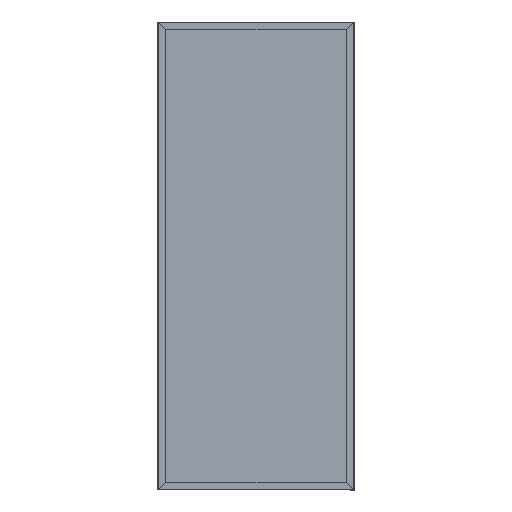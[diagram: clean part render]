
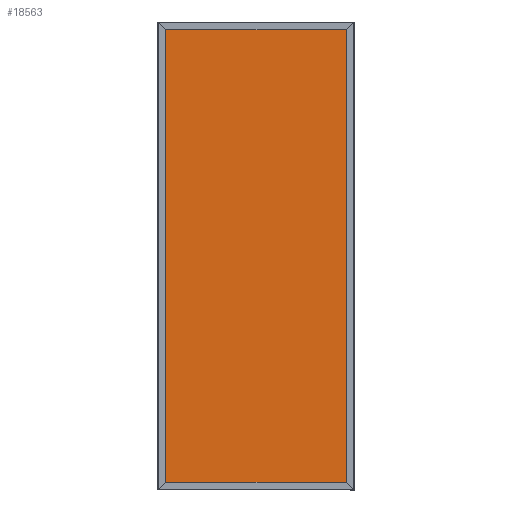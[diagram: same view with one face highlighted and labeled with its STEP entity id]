
A CAD part, top view. The second image highlights one B-rep face of the part: STEP entity #18563.
In plain terms, the highlighted planar face has unit normal (0, 0, 1).
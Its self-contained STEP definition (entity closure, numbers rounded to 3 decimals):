
#590 = ORIENTED_EDGE ( 'NONE', *, *, #17396, .F. ) ;
#1363 = CARTESIAN_POINT ( 'NONE',  ( 465.07, 0., -13.25 ) ) ;
#1389 = ORIENTED_EDGE ( 'NONE', *, *, #23765, .T. ) ;
#2536 = DIRECTION ( 'NONE',  ( -1., 0., 0. ) ) ;
#3488 = VERTEX_POINT ( 'NONE', #24985 ) ;
#3492 = DIRECTION ( 'NONE',  ( 0., 1., 0. ) ) ;
#4734 = FACE_OUTER_BOUND ( 'NONE', #6792, .T. ) ;
#5051 = AXIS2_PLACEMENT_3D ( 'NONE', #11114, #20079, #17928 ) ;
#5874 = CARTESIAN_POINT ( 'NONE',  ( 465.07, 1162.2, -13.25 ) ) ;
#6182 = LINE ( 'NONE', #23545, #13918 ) ;
#6792 = EDGE_LOOP ( 'NONE', ( #25940, #590, #10484, #1389 ) ) ;
#7787 = LINE ( 'NONE', #16741, #25821 ) ;
#9973 = CARTESIAN_POINT ( 'NONE',  ( -465.07, -1162.2, -13.25 ) ) ;
#10484 = ORIENTED_EDGE ( 'NONE', *, *, #11732, .T. ) ;
#11114 = CARTESIAN_POINT ( 'NONE',  ( 0., 0., -13.25 ) ) ;
#11269 = PLANE ( 'NONE',  #5051 ) ;
#11732 = EDGE_CURVE ( 'NONE', #14538, #17063, #14151, .T. ) ;
#12580 = VECTOR ( 'NONE', #3492, 1000. ) ;
#13918 = VECTOR ( 'NONE', #23254, 1000. ) ;
#14151 = LINE ( 'NONE', #1363, #12580 ) ;
#14538 = VERTEX_POINT ( 'NONE', #21924 ) ;
#15052 = CARTESIAN_POINT ( 'NONE',  ( 0., 1162.2, -13.25 ) ) ;
#15666 = VECTOR ( 'NONE', #2536, 1000. ) ;
#16452 = DIRECTION ( 'NONE',  ( -1., 0., 0. ) ) ;
#16741 = CARTESIAN_POINT ( 'NONE',  ( 0., -1162.2, -13.25 ) ) ;
#17063 = VERTEX_POINT ( 'NONE', #5874 ) ;
#17396 = EDGE_CURVE ( 'NONE', #14538, #18703, #7787, .T. ) ;
#17928 = DIRECTION ( 'NONE',  ( -1., 0., 0. ) ) ;
#18563 = ADVANCED_FACE ( 'NONE', ( #4734 ), #11269, .F. ) ;
#18703 = VERTEX_POINT ( 'NONE', #9973 ) ;
#19595 = LINE ( 'NONE', #15052, #15666 ) ;
#20079 = DIRECTION ( 'NONE',  ( 0., 0., -1. ) ) ;
#21924 = CARTESIAN_POINT ( 'NONE',  ( 465.07, -1162.2, -13.25 ) ) ;
#23254 = DIRECTION ( 'NONE',  ( 0., 1., 0. ) ) ;
#23545 = CARTESIAN_POINT ( 'NONE',  ( -465.07, 0., -13.25 ) ) ;
#23765 = EDGE_CURVE ( 'NONE', #17063, #3488, #19595, .T. ) ;
#24985 = CARTESIAN_POINT ( 'NONE',  ( -465.07, 1162.2, -13.25 ) ) ;
#25551 = EDGE_CURVE ( 'NONE', #18703, #3488, #6182, .T. ) ;
#25821 = VECTOR ( 'NONE', #16452, 1000. ) ;
#25940 = ORIENTED_EDGE ( 'NONE', *, *, #25551, .F. ) ;
